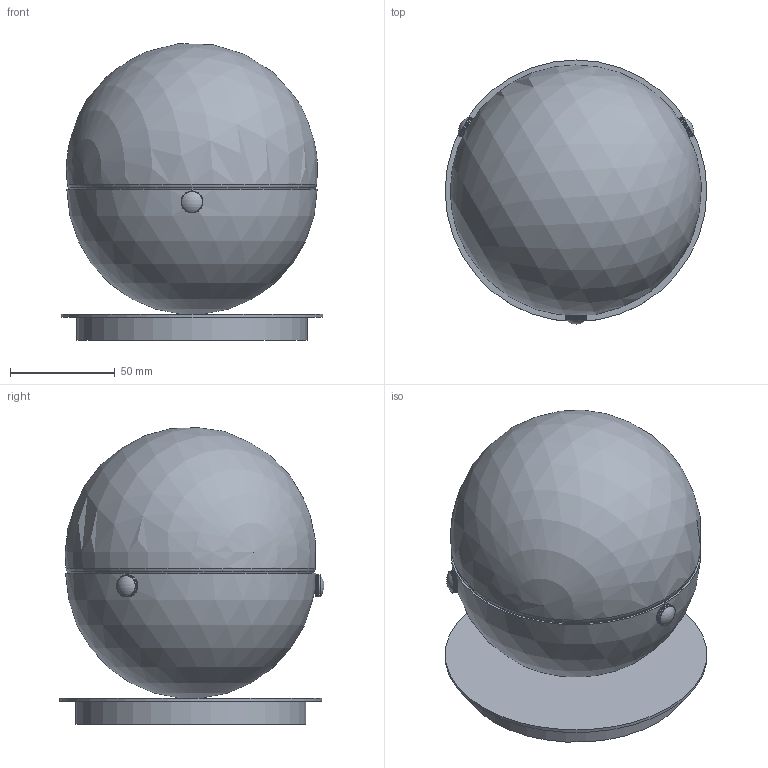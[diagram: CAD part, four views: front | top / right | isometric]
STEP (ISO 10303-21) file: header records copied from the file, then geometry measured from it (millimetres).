
FILE_DESCRIPTION(/* description */ (''),/* implementation_level */ '2;1');
FILE_NAME(/* name */ 'B657 Pulsar Molecule.stp',/* time_stamp */ '2023-02-08T14:32:12+01:00',/* author */ ('Mariusz Awariusz'),/* organization */ (''),/* preprocessor_version */ 'ST-DEVELOPER v19.2',/* originating_system */ 'Autodesk Inventor 2023',/* authorisation */ '');
FILE_SCHEMA (('AUTOMOTIVE_DESIGN { 1 0 10303 214 3 1 1 }'));
Length unit declared in the file: millimetre
Products named in the file (1): B657 Pulsar Molecule_jako część
Bounding box: 125 x 126.21 x 141.6 mm (x, y, z)
Volume: 194931.6 mm3; surface area: 139002.2 mm2
Topology: 182 solids, 182 shells, 1511 faces, 3410 edges, 2267 vertices
Faces by surface type: plane 1271, cylinder 194, bspline 24, torus 10, sphere 7, cone 5
Full cylindrical faces by diameter (mm): 4 x6, 6 x3, 10 x1, 109 x1, 110 x1, 112 x1, 125 x1
Entity records: 42512 total; most frequent: CARTESIAN_POINT 8374, ORIENTED_EDGE 6812, DIRECTION 6757, EDGE_CURVE 3406, LINE 2899, VECTOR 2899, VERTEX_POINT 2267, AXIS2_PLACEMENT_3D 1929
